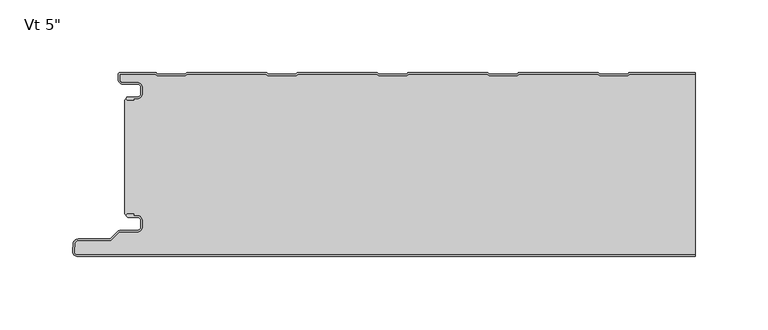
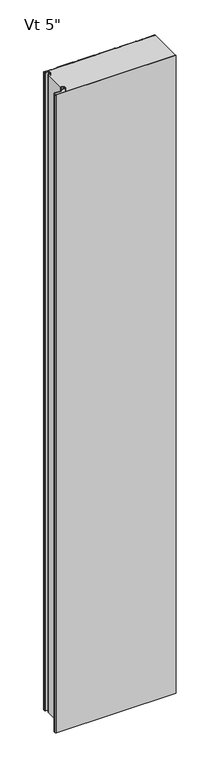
"""IFC4 building model written with IfcOpenShell, lengths in millimetres: plate geometry."""

from ifc_helpers import new_model, si_unit, point, frame, frame_2d, origin, origin_with_axes, place, context, project, spatial, polyline, circle_curve, trimmed, segment, composite_curve, outline, extrude, source, transform, mapped, element, save
from ifc_brep_helpers import plane_surface, cylinder_surface, revolved_surface, advanced_brep


def plate_d46dd3be(model_context):
    return source(origin(), model_context, "Body", "SolidModel", [
        advanced_brep(
        [(-194.5686912, -17.001516, 2400.0), (-195.5686884, -18.0015192, 2400.0), (-194.5686912, -19.0015105, 2400.0), (-190.5684875, -19.0015105, 2400.0), (-190.5684875, -18.001516, 2400.0), (-187.8762777, -18.001516, 2400.0), (-184.576282, -14.7015203, 2400.0), (-184.576282, -10.3015291, 2400.0), (-187.8762775, -7.0015336, 2400.0), (-198.2962564, -7.0015336, 2400.0), (-200.0662506, -5.2315394, 2400.0), (-200.0662506, -0.9999917, 2400.0), (-175.565974, -0.9999917, 2400.0), (-174.1803314, -2.2002307, 2400.0), (-154.8051651, -2.2002307, 2400.0), (-153.4195321, -1.0, 2400.0), (-99.3661168, -0.9999999, 2400.0), (-97.9804838, -2.2002306, 2400.0), (-78.6053175, -2.2002306, 2400.0), (-77.2196845, -0.9999999, 2400.0), (-23.1662692, -0.9999998, 2400.0), (-21.7806362, -2.2002305, 2400.0), (-2.4054699, -2.2002304, 2400.0), (-1.0198369, -0.9999997, 2400.0), (53.0335784, -0.9999996, 2400.0), (54.4192114, -2.2002303, 2400.0), (73.7943777, -2.2002303, 2400.0), (75.1800107, -0.9999996, 2400.0), (129.233426, -0.9999995, 2400.0), (130.619059, -2.2002302, 2400.0), (149.9942253, -2.2002302, 2400.0), (151.3798583, -0.9999995, 2400.0), (196.5999997, -0.9999994, 2400.0), (196.5999997, 6e-07, 2400.0), (151.5290094, 5e-07, 2400.0), (150.6123925, -0.341788, 2400.0), (149.6213449, -1.2002302, 2400.0), (130.9919394, -1.2002302, 2400.0), (130.0008918, -0.341788, 2400.0), (129.0842749, 5e-07, 2400.0), (75.3291618, 4e-07, 2400.0), (74.4125449, -0.3417881, 2400.0), (73.4214973, -1.2002303, 2400.0), (54.7920918, -1.2002303, 2400.0), (53.8010442, -0.3417881, 2400.0), (52.8844273, 4e-07, 2400.0), (-0.8706858, 3e-07, 2400.0), (-1.7873027, -0.3417882, 2400.0), (-2.7783503, -1.2002304, 2400.0), (-21.4077558, -1.2002305, 2400.0), (-22.3988034, -0.3417883, 2400.0), (-23.3154203, 2e-07, 2400.0), (-77.0705334, 1e-07, 2400.0), (-77.9871503, -0.3417884, 2400.0), (-78.9781979, -1.2002306, 2400.0), (-97.6076034, -1.2002306, 2400.0), (-98.598651, -0.3417884, 2400.0), (-99.5152679, 1e-07, 2400.0), (-153.270381, 0.0, 2400.0), (-154.1869979, -0.3417885, 2400.0), (-155.1780455, -1.2002307, 2400.0), (-173.807451, -1.2002307, 2400.0), (-174.7984986, -0.3417885, 2400.0), (-175.7152069, 0.0, 2400.0), (-199.6662545, 8.3e-06, 2400.0), (-201.0662506, -1.3999879, 2400.0), (-201.0662506, -5.2315394, 2400.0), (-198.2962564, -8.0015336, 2400.0), (-187.8762775, -8.0015336, 2400.0), (-185.576282, -10.3015291, 2400.0), (-185.576282, -14.7015203, 2400.0), (-187.8762777, -17.001516, 2400.0), (-194.5686912, -17.001516, 0.0), (-187.8762777, -17.001516, 0.0), (-185.576282, -14.7015203, 0.0), (-185.576282, -10.3015291, 0.0), (-187.8762775, -8.0015336, 0.0), (-198.2962564, -8.0015336, 0.0), (-201.0662506, -5.2315394, 0.0), (-201.0662506, -1.3999879, 0.0), (-199.6662545, 8.3e-06, 0.0), (-175.7151155, 8.3e-06, 0.0), (-174.7984986, -0.3417885, 0.0), (-173.807451, -1.2002307, 0.0), (-155.1780455, -1.2002307, 0.0), (-154.1869979, -0.3417885, 0.0), (-153.270381, 0.0, 0.0), (-99.5152679, 1e-07, 0.0), (-98.598651, -0.3417884, 0.0), (-97.6076034, -1.2002306, 0.0), (-78.9781979, -1.2002306, 0.0), (-77.9871503, -0.3417884, 0.0), (-77.0705334, 1e-07, 0.0), (-23.3154203, 2e-07, 0.0), (-22.3988034, -0.3417883, 0.0), (-21.4077558, -1.2002305, 0.0), (-2.7783503, -1.2002304, 0.0), (-1.7873027, -0.3417882, 0.0), (-0.8706858, 3e-07, 0.0), (52.8844273, 4e-07, 0.0), (53.8010442, -0.3417881, 0.0), (54.7920918, -1.2002303, 0.0), (73.4214973, -1.2002303, 0.0), (74.4125449, -0.3417881, 0.0), (75.3291618, 4e-07, 0.0), (129.0842749, 5e-07, 0.0), (130.0008918, -0.341788, 0.0), (130.9919394, -1.2002302, 0.0), (149.6213449, -1.2002302, 0.0), (150.6123925, -0.341788, 0.0), (151.5290094, 5e-07, 0.0), (196.5999997, 6e-07, 0.0), (196.5999997, -0.9999994, 0.0), (151.3798583, -0.9999995, 0.0), (149.9942253, -2.2002302, 0.0), (130.619059, -2.2002302, 0.0), (129.233426, -0.9999995, 0.0), (75.1800107, -0.9999996, 0.0), (73.7943777, -2.2002303, 0.0), (54.4192114, -2.2002303, 0.0), (53.0335784, -0.9999996, 0.0), (-1.0198369, -0.9999997, 0.0), (-2.4054699, -2.2002304, 0.0), (-21.7806362, -2.2002305, 0.0), (-23.1662692, -0.9999998, 0.0), (-77.2196845, -0.9999999, 0.0), (-78.6053175, -2.2002306, 0.0), (-97.9804838, -2.2002306, 0.0), (-99.3661168, -0.9999999, 0.0), (-153.4195321, -1.0, 0.0), (-154.8051651, -2.2002307, 0.0), (-174.1803314, -2.2002307, 0.0), (-175.565974, -0.9999917, 0.0), (-200.0662506, -0.9999917, 0.0), (-200.0662506, -5.2315394, 0.0), (-198.2962564, -7.0015336, 0.0), (-187.8762775, -7.0015336, 0.0), (-184.576282, -10.3015291, 0.0), (-184.576282, -14.7015203, 0.0), (-187.8762777, -18.001516, 0.0), (-190.5684875, -18.001516, 0.0), (-190.5684875, -19.0015105, 0.0), (-194.5686912, -19.0015105, 0.0), (-195.5686883, -18.0015193, 0.0)],
        [
            (0, 1, circle_curve(frame((-194.5686912, -18.0015133, 2400.0), z_axis=(0.0, 0.0, 1.0), x_axis=(1.0, 1.7886125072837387e-09, 0.0)), 0.9999973)),
            (1, 2, circle_curve(frame((-194.5686912, -18.0015133, 2400.0), z_axis=(0.0, 0.0, 1.0), x_axis=(1.0, 1.7886125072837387e-09, 0.0)), 0.9999972)),
            (2, 3),
            (3, 4),
            (4, 5),
            (5, 6, circle_curve(frame((-187.8762777, -14.7015203, 2400.0), z_axis=(0.0, 0.0, 1.0), x_axis=(1.0, 1.7886125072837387e-09, 0.0)), 3.2999957)),
            (6, 7),
            (7, 8, circle_curve(frame((-187.8762775, -10.3015291, 2400.0), z_axis=(0.0, 0.0, 1.0), x_axis=(1.0, 1.7886125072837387e-09, 0.0)), 3.2999955)),
            (8, 9),
            (9, 10, circle_curve(frame((-198.2962564, -5.2315394, 2400.0), z_axis=(0.0, 0.0, -1.0), x_axis=(1.0, 1.7886125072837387e-09, 0.0)), 1.7699942)),
            (10, 11),
            (11, 12),
            (12, 13),
            (13, 14),
            (14, 15),
            (15, 16),
            (16, 17),
            (17, 18),
            (18, 19),
            (19, 20),
            (20, 21),
            (21, 22),
            (22, 23),
            (23, 24),
            (24, 25),
            (25, 26),
            (26, 27),
            (27, 28),
            (28, 29),
            (29, 30),
            (30, 31),
            (31, 32),
            (32, 33),
            (33, 34),
            (34, 35, circle_curve(frame((151.5290094, -1.3999967, 2400.0), z_axis=(0.0, 0.0, 1.0), x_axis=(1.0, 1.7886125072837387e-09, 0.0)), 1.3999972)),
            (35, 36),
            (36, 37),
            (37, 38),
            (38, 39, circle_curve(frame((129.0842749, -1.3999967, 2400.0), z_axis=(0.0, 0.0, 1.0), x_axis=(1.0, 1.7886125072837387e-09, 0.0)), 1.3999972)),
            (39, 40),
            (40, 41, circle_curve(frame((75.3291618, -1.3999968, 2400.0), z_axis=(0.0, 0.0, 1.0), x_axis=(1.0, 1.7886125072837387e-09, 0.0)), 1.3999972)),
            (41, 42),
            (42, 43),
            (43, 44),
            (44, 45, circle_curve(frame((52.8844273, -1.3999968, 2400.0), z_axis=(0.0, 0.0, 1.0), x_axis=(1.0, 1.7886125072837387e-09, 0.0)), 1.3999972)),
            (45, 46),
            (46, 47, circle_curve(frame((-0.8706858, -1.3999969, 2400.0), z_axis=(0.0, 0.0, 1.0), x_axis=(1.0, 1.7886125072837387e-09, 0.0)), 1.3999972)),
            (47, 48),
            (48, 49),
            (49, 50),
            (50, 51, circle_curve(frame((-23.3154203, -1.399997, 2400.0), z_axis=(0.0, 0.0, 1.0), x_axis=(1.0, 1.7886125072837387e-09, 0.0)), 1.3999972)),
            (51, 52),
            (52, 53, circle_curve(frame((-77.0705334, -1.3999971, 2400.0), z_axis=(0.0, 0.0, 1.0), x_axis=(1.0, 1.7886125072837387e-09, 0.0)), 1.3999972)),
            (53, 54),
            (54, 55),
            (55, 56),
            (56, 57, circle_curve(frame((-99.5152679, -1.3999971, 2400.0), z_axis=(0.0, 0.0, 1.0), x_axis=(1.0, 1.7886125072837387e-09, 0.0)), 1.3999972)),
            (57, 58),
            (58, 59, circle_curve(frame((-153.270381, -1.3999972, 2400.0), z_axis=(0.0, 0.0, 1.0), x_axis=(1.0, 1.7886125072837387e-09, 0.0)), 1.3999972)),
            (59, 60),
            (60, 61),
            (61, 62),
            (62, 63, circle_curve(frame((-175.7151155, -1.3999972, 2400.0), z_axis=(0.0, 0.0, 1.0), x_axis=(1.0, 1.7886125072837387e-09, 0.0)), 1.3999972)),
            (63, 64),
            (64, 65, circle_curve(frame((-199.6662545, -1.3999879, 2400.0), z_axis=(0.0, 0.0, 1.0), x_axis=(1.0, 1.7886125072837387e-09, 0.0)), 1.3999962)),
            (65, 66),
            (66, 67, circle_curve(frame((-198.2962564, -5.2315394, 2400.0), z_axis=(0.0, 0.0, 1.0), x_axis=(1.0, 1.7886125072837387e-09, 0.0)), 2.7699942)),
            (67, 68),
            (68, 69, circle_curve(frame((-187.8762775, -10.3015291, 2400.0), z_axis=(0.0, 0.0, -1.0), x_axis=(1.0, 1.7886125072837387e-09, 0.0)), 2.2999955)),
            (69, 70),
            (70, 71, circle_curve(frame((-187.8762777, -14.7015203, 2400.0), z_axis=(0.0, 0.0, -1.0), x_axis=(1.0, 1.7886125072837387e-09, 0.0)), 2.2999957)),
            (71, 0),
            (72, 73),
            (73, 74, circle_curve(frame((-187.8762777, -14.7015203, 0.0), z_axis=(0.0, 0.0, 1.0), x_axis=(1.0, 1.7886125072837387e-09, 0.0)), 2.2999957)),
            (74, 75),
            (75, 76, circle_curve(frame((-187.8762775, -10.3015291, 0.0), z_axis=(0.0, 0.0, 1.0), x_axis=(1.0, 1.7886125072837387e-09, 0.0)), 2.2999955)),
            (76, 77),
            (77, 78, circle_curve(frame((-198.2962564, -5.2315394, 0.0), z_axis=(0.0, 0.0, -1.0), x_axis=(1.0, 1.7886125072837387e-09, 0.0)), 2.7699942)),
            (78, 79),
            (79, 80, circle_curve(frame((-199.6662545, -1.3999879, 0.0), z_axis=(0.0, 0.0, -1.0), x_axis=(1.0, 1.7886125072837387e-09, 0.0)), 1.3999962)),
            (80, 81),
            (81, 82, circle_curve(frame((-175.7151155, -1.3999972, 0.0), z_axis=(0.0, 0.0, -1.0), x_axis=(1.0, 1.7886125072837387e-09, 0.0)), 1.3999972)),
            (82, 83),
            (83, 84),
            (84, 85),
            (85, 86, circle_curve(frame((-153.270381, -1.3999972, 0.0), z_axis=(0.0, 0.0, -1.0), x_axis=(1.0, 1.7886125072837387e-09, 0.0)), 1.3999972)),
            (86, 87),
            (87, 88, circle_curve(frame((-99.5152679, -1.3999971, 0.0), z_axis=(0.0, 0.0, -1.0), x_axis=(1.0, 1.7886125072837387e-09, 0.0)), 1.3999972)),
            (88, 89),
            (89, 90),
            (90, 91),
            (91, 92, circle_curve(frame((-77.0705334, -1.3999971, 0.0), z_axis=(0.0, 0.0, -1.0), x_axis=(1.0, 1.7886125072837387e-09, 0.0)), 1.3999972)),
            (92, 93),
            (93, 94, circle_curve(frame((-23.3154203, -1.399997, 0.0), z_axis=(0.0, 0.0, -1.0), x_axis=(1.0, 1.7886125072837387e-09, 0.0)), 1.3999972)),
            (94, 95),
            (95, 96),
            (96, 97),
            (97, 98, circle_curve(frame((-0.8706858, -1.3999969, 0.0), z_axis=(0.0, 0.0, -1.0), x_axis=(1.0, 1.7886125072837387e-09, 0.0)), 1.3999972)),
            (98, 99),
            (99, 100, circle_curve(frame((52.8844273, -1.3999968, 0.0), z_axis=(0.0, 0.0, -1.0), x_axis=(1.0, 1.7886125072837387e-09, 0.0)), 1.3999972)),
            (100, 101),
            (101, 102),
            (102, 103),
            (103, 104, circle_curve(frame((75.3291618, -1.3999968, 0.0), z_axis=(0.0, 0.0, -1.0), x_axis=(1.0, 1.7886125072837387e-09, 0.0)), 1.3999972)),
            (104, 105),
            (105, 106, circle_curve(frame((129.0842749, -1.3999967, 0.0), z_axis=(0.0, 0.0, -1.0), x_axis=(1.0, 1.7886125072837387e-09, 0.0)), 1.3999972)),
            (106, 107),
            (107, 108),
            (108, 109),
            (109, 110, circle_curve(frame((151.5290094, -1.3999967, 0.0), z_axis=(0.0, 0.0, -1.0), x_axis=(1.0, 1.7886125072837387e-09, 0.0)), 1.3999972)),
            (110, 111),
            (111, 112),
            (112, 113),
            (113, 114),
            (114, 115),
            (115, 116),
            (116, 117),
            (117, 118),
            (118, 119),
            (119, 120),
            (120, 121),
            (121, 122),
            (122, 123),
            (123, 124),
            (124, 125),
            (125, 126),
            (126, 127),
            (127, 128),
            (128, 129),
            (129, 130),
            (130, 131),
            (131, 132),
            (132, 133),
            (133, 134),
            (134, 135, circle_curve(frame((-198.2962564, -5.2315394, 0.0), z_axis=(0.0, 0.0, 1.0), x_axis=(1.0, 1.7886125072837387e-09, 0.0)), 1.7699942)),
            (135, 136),
            (136, 137, circle_curve(frame((-187.8762775, -10.3015291, 0.0), z_axis=(0.0, 0.0, -1.0), x_axis=(1.0, 1.7886125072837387e-09, 0.0)), 3.2999955)),
            (137, 138),
            (138, 139, circle_curve(frame((-187.8762777, -14.7015203, 0.0), z_axis=(0.0, 0.0, -1.0), x_axis=(1.0, 1.7886125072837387e-09, 0.0)), 3.2999957)),
            (139, 140),
            (140, 141),
            (141, 142),
            (142, 143, circle_curve(frame((-194.5686912, -18.0015133, 0.0), z_axis=(0.0, 0.0, -1.0), x_axis=(1.0, 1.7886125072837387e-09, 0.0)), 0.9999972)),
            (143, 72, circle_curve(frame((-194.5686912, -18.0015133, 0.0), z_axis=(0.0, 0.0, -1.0), x_axis=(1.0, 1.7886125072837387e-09, 0.0)), 0.9999973)),
            (32, 112),
            (111, 33),
            (71, 73),
            (72, 0),
            (70, 74),
            (69, 75),
            (68, 76),
            (67, 77),
            (66, 78),
            (65, 79),
            (64, 80),
            (63, 81),
            (62, 82),
            (61, 83),
            (60, 84),
            (59, 85),
            (58, 86),
            (57, 87),
            (56, 88),
            (55, 89),
            (54, 90),
            (53, 91),
            (52, 92),
            (51, 93),
            (50, 94),
            (49, 95),
            (48, 96),
            (47, 97),
            (46, 98),
            (45, 99),
            (44, 100),
            (43, 101),
            (42, 102),
            (41, 103),
            (40, 104),
            (39, 105),
            (38, 106),
            (37, 107),
            (36, 108),
            (35, 109),
            (34, 110),
            (31, 113),
            (30, 114),
            (29, 115),
            (28, 116),
            (27, 117),
            (26, 118),
            (25, 119),
            (24, 120),
            (23, 121),
            (22, 122),
            (21, 123),
            (20, 124),
            (19, 125),
            (18, 126),
            (17, 127),
            (16, 128),
            (15, 129),
            (14, 130),
            (13, 131),
            (12, 132),
            (11, 133),
            (10, 134),
            (9, 135),
            (8, 136),
            (7, 137),
            (6, 138),
            (5, 139),
            (4, 140),
            (3, 141),
            (2, 142),
            (1, 143),
        ],
        [
            plane_surface(frame((336.8, 9e-07, 2400.0), z_axis=(0.0, 0.0, 1.0), x_axis=(-1.7886125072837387e-09, 1.0, 0.0))),
            plane_surface(frame((336.8, 9e-07, 0.0), z_axis=(0.0, 0.0, -1.0), x_axis=(-1.7886125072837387e-09, 1.0, 0.0))),
            plane_surface(frame((196.5999999, -136.9999994, 2400.0), z_axis=(1.0, 1.7886125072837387e-09, 0.0), x_axis=(0.0, 0.0, -1.0))),
            plane_surface(frame((-194.5686912, -17.001516, 2400.0), z_axis=(-1.7886125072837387e-09, 1.0, 0.0), x_axis=(0.0, 0.0, -1.0))),
            revolved_surface(polyline([(-185.576282, -14.7015202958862, 0.0), (-185.576282, -14.7015202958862, 2400.0)]), (-187.8762777, -14.7015203, 2400.0), (0.0, 0.0, -1.0)),
            plane_surface(frame((-185.576282, -14.7015203, 2400.0), z_axis=(-1.0, -1.7886125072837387e-09, 0.0), x_axis=(0.0, 0.0, -1.0))),
            revolved_surface(polyline([(-185.576282, -10.301529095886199, 0.0), (-185.576282, -10.301529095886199, 2400.0)]), (-187.8762775, -10.3015291, 2400.0), (0.0, 0.0, -1.0)),
            plane_surface(frame((-187.8762775, -8.0015336, 2400.0), z_axis=(1.7886125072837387e-09, -1.0, 0.0), x_axis=(0.0, 0.0, -1.0))),
            cylinder_surface(frame((-198.2962564, -5.2315394, 2400.0), z_axis=(0.0, 0.0, 1.0), x_axis=(1.0, 1.7886125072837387e-09, 0.0)), 2.7699942),
            plane_surface(frame((-201.0662506, -5.2315394, 2400.0), z_axis=(-1.0, -1.7886125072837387e-09, 0.0), x_axis=(0.0, 0.0, -1.0))),
            cylinder_surface(frame((-199.6662545, -1.3999879, 2400.0), z_axis=(0.0, 0.0, 1.0), x_axis=(1.0, 1.7886125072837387e-09, 0.0)), 1.3999962),
            plane_surface(frame((-199.6662545, 8.3e-06, 2400.0), z_axis=(-1.7886125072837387e-09, 1.0, 0.0), x_axis=(0.0, 0.0, -1.0))),
            cylinder_surface(frame((-175.7151155, -1.3999972, 2400.0), z_axis=(0.0, 0.0, 1.0), x_axis=(1.0, 1.7886125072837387e-09, 0.0)), 1.3999972),
            plane_surface(frame((-174.7984986, -0.3417885, 2400.0), z_axis=(0.6547276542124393, 0.755864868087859, 0.0), x_axis=(0.0, 0.0, -1.0))),
            plane_surface(frame((-164.4927482, -1.2002307, 2400.0), z_axis=(-1.7886125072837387e-09, 1.0, 0.0), x_axis=(0.0, 0.0, -1.0))),
            plane_surface(frame((-155.1780455, -1.2002307, 2400.0), z_axis=(-0.6547276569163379, 0.755864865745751, 0.0), x_axis=(0.0, 0.0, -1.0))),
            cylinder_surface(frame((-153.270381, -1.3999972, 2400.0), z_axis=(0.0, 0.0, 1.0), x_axis=(1.0, 1.7886125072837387e-09, 0.0)), 1.3999972),
            plane_surface(frame((-153.270381, 0.0, 2400.0), z_axis=(-1.7886074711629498e-09, 1.0, 0.0), x_axis=(0.0, 0.0, -1.0))),
            cylinder_surface(frame((-99.5152679, -1.3999971, 2400.0), z_axis=(0.0, 0.0, 1.0), x_axis=(1.0, 1.7886125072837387e-09, 0.0)), 1.3999972),
            plane_surface(frame((-98.598651, -0.3417884, 2400.0), z_axis=(0.6547276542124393, 0.755864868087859, 0.0), x_axis=(0.0, 0.0, -1.0))),
            plane_surface(frame((-88.2929006, -1.2002306, 2400.0), z_axis=(-1.7886125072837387e-09, 1.0, 0.0), x_axis=(0.0, 0.0, -1.0))),
            plane_surface(frame((-78.9781979, -1.2002306, 2400.0), z_axis=(-0.6547276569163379, 0.755864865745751, 0.0), x_axis=(0.0, 0.0, -1.0))),
            cylinder_surface(frame((-77.0705334, -1.3999971, 2400.0), z_axis=(0.0, 0.0, 1.0), x_axis=(1.0, 1.7886125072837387e-09, 0.0)), 1.3999972),
            plane_surface(frame((-77.0705334, 1e-07, 2400.0), z_axis=(-1.7886074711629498e-09, 1.0, 0.0), x_axis=(0.0, 0.0, -1.0))),
            cylinder_surface(frame((-23.3154203, -1.399997, 2400.0), z_axis=(0.0, 0.0, 1.0), x_axis=(1.0, 1.7886125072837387e-09, 0.0)), 1.3999972),
            plane_surface(frame((-22.3988034, -0.3417883, 2400.0), z_axis=(0.6547276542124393, 0.755864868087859, 0.0), x_axis=(0.0, 0.0, -1.0))),
            plane_surface(frame((-12.093053, -1.2002305, 2400.0), z_axis=(-1.7886125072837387e-09, 1.0, 0.0), x_axis=(0.0, 0.0, -1.0))),
            plane_surface(frame((-2.7783503, -1.2002304, 2400.0), z_axis=(-0.6547276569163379, 0.755864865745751, 0.0), x_axis=(0.0, 0.0, -1.0))),
            cylinder_surface(frame((-0.8706858, -1.3999969, 2400.0), z_axis=(0.0, 0.0, 1.0), x_axis=(1.0, 1.7886125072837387e-09, 0.0)), 1.3999972),
            plane_surface(frame((-0.8706858, 3e-07, 2400.0), z_axis=(-1.7886074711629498e-09, 1.0, 0.0), x_axis=(0.0, 0.0, -1.0))),
            cylinder_surface(frame((52.8844273, -1.3999968, 2400.0), z_axis=(0.0, 0.0, 1.0), x_axis=(1.0, 1.7886125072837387e-09, 0.0)), 1.3999972),
            plane_surface(frame((53.8010442, -0.3417881, 2400.0), z_axis=(0.6547276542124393, 0.755864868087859, 0.0), x_axis=(0.0, 0.0, -1.0))),
            plane_surface(frame((64.1067946, -1.2002303, 2400.0), z_axis=(-1.7886125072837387e-09, 1.0, 0.0), x_axis=(0.0, 0.0, -1.0))),
            plane_surface(frame((73.4214973, -1.2002303, 2400.0), z_axis=(-0.6547276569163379, 0.755864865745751, 0.0), x_axis=(0.0, 0.0, -1.0))),
            cylinder_surface(frame((75.3291618, -1.3999968, 2400.0), z_axis=(0.0, 0.0, 1.0), x_axis=(1.0, 1.7886125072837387e-09, 0.0)), 1.3999972),
            plane_surface(frame((75.3291618, 4e-07, 2400.0), z_axis=(-1.7886074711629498e-09, 1.0, 0.0), x_axis=(0.0, 0.0, -1.0))),
            cylinder_surface(frame((129.0842749, -1.3999967, 2400.0), z_axis=(0.0, 0.0, 1.0), x_axis=(1.0, 1.7886125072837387e-09, 0.0)), 1.3999972),
            plane_surface(frame((130.0008918, -0.341788, 2400.0), z_axis=(0.6547276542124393, 0.755864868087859, 0.0), x_axis=(0.0, 0.0, -1.0))),
            plane_surface(frame((140.3066422, -1.2002302, 2400.0), z_axis=(-1.7886125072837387e-09, 1.0, 0.0), x_axis=(0.0, 0.0, -1.0))),
            plane_surface(frame((149.6213449, -1.2002302, 2400.0), z_axis=(-0.6547276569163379, 0.755864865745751, 0.0), x_axis=(0.0, 0.0, -1.0))),
            cylinder_surface(frame((151.5290094, -1.3999967, 2400.0), z_axis=(0.0, 0.0, 1.0), x_axis=(1.0, 1.7886125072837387e-09, 0.0)), 1.3999972),
            plane_surface(frame((151.5290094, 5e-07, 2400.0), z_axis=(-1.7886074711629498e-09, 1.0, 0.0), x_axis=(0.0, 0.0, -1.0))),
            plane_surface(frame((205.4332736, -0.9999994, 2400.0), z_axis=(1.7886074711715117e-09, -1.0, 0.0), x_axis=(0.0, 0.0, -1.0))),
            plane_surface(frame((151.3798583, -0.9999995, 2400.0), z_axis=(0.6547276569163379, -0.755864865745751, 0.0), x_axis=(0.0, 0.0, -1.0))),
            plane_surface(frame((149.9942253, -2.2002302, 2400.0), z_axis=(1.7886125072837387e-09, -1.0, 0.0), x_axis=(0.0, 0.0, -1.0))),
            plane_surface(frame((130.619059, -2.2002302, 2400.0), z_axis=(-0.6547276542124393, -0.755864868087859, 0.0), x_axis=(0.0, 0.0, -1.0))),
            plane_surface(frame((129.233426, -0.9999995, 2400.0), z_axis=(1.7886074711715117e-09, -1.0, 0.0), x_axis=(0.0, 0.0, -1.0))),
            plane_surface(frame((75.1800107, -0.9999996, 2400.0), z_axis=(0.6547276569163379, -0.755864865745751, 0.0), x_axis=(0.0, 0.0, -1.0))),
            plane_surface(frame((73.7943777, -2.2002303, 2400.0), z_axis=(1.7886125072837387e-09, -1.0, 0.0), x_axis=(0.0, 0.0, -1.0))),
            plane_surface(frame((54.4192114, -2.2002303, 2400.0), z_axis=(-0.6547276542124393, -0.755864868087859, 0.0), x_axis=(0.0, 0.0, -1.0))),
            plane_surface(frame((53.0335784, -0.9999996, 2400.0), z_axis=(1.7886074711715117e-09, -1.0, 0.0), x_axis=(0.0, 0.0, -1.0))),
            plane_surface(frame((-1.0198369, -0.9999997, 2400.0), z_axis=(0.6547276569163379, -0.755864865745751, 0.0), x_axis=(0.0, 0.0, -1.0))),
            plane_surface(frame((-2.4054699, -2.2002304, 2400.0), z_axis=(1.7886125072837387e-09, -1.0, 0.0), x_axis=(0.0, 0.0, -1.0))),
            plane_surface(frame((-21.7806362, -2.2002305, 2400.0), z_axis=(-0.6547276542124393, -0.755864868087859, 0.0), x_axis=(0.0, 0.0, -1.0))),
            plane_surface(frame((-23.1662692, -0.9999998, 2400.0), z_axis=(1.7886074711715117e-09, -1.0, 0.0), x_axis=(0.0, 0.0, -1.0))),
            plane_surface(frame((-77.2196845, -0.9999999, 2400.0), z_axis=(0.6547276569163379, -0.755864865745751, 0.0), x_axis=(0.0, 0.0, -1.0))),
            plane_surface(frame((-78.6053175, -2.2002306, 2400.0), z_axis=(1.7886125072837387e-09, -1.0, 0.0), x_axis=(0.0, 0.0, -1.0))),
            plane_surface(frame((-97.9804838, -2.2002306, 2400.0), z_axis=(-0.6547276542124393, -0.755864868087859, 0.0), x_axis=(0.0, 0.0, -1.0))),
            plane_surface(frame((-99.3661168, -0.9999999, 2400.0), z_axis=(1.7886074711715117e-09, -1.0, 0.0), x_axis=(0.0, 0.0, -1.0))),
            plane_surface(frame((-153.4195321, -1.0, 2400.0), z_axis=(0.6547276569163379, -0.755864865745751, 0.0), x_axis=(0.0, 0.0, -1.0))),
            plane_surface(frame((-154.8051651, -2.2002307, 2400.0), z_axis=(1.7886125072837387e-09, -1.0, 0.0), x_axis=(0.0, 0.0, -1.0))),
            plane_surface(frame((-174.1803314, -2.2002307, 2400.0), z_axis=(-0.6547276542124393, -0.755864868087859, 0.0), x_axis=(0.0, 0.0, -1.0))),
            plane_surface(frame((-175.565974, -0.9999917, 2400.0), z_axis=(1.7886125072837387e-09, -1.0, 0.0), x_axis=(0.0, 0.0, -1.0))),
            plane_surface(frame((-200.0662506, -0.9999917, 2400.0), z_axis=(1.0, 1.7886125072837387e-09, 0.0), x_axis=(0.0, 0.0, -1.0))),
            revolved_surface(polyline([(-196.5262622, -5.231539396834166, 0.0), (-196.5262622, -5.231539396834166, 2400.0)]), (-198.2962564, -5.2315394, 2400.0), (0.0, 0.0, -1.0)),
            plane_surface(frame((-198.2962564, -7.0015336, 2400.0), z_axis=(-1.7886125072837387e-09, 1.0, 0.0), x_axis=(0.0, 0.0, -1.0))),
            cylinder_surface(frame((-187.8762775, -10.3015291, 2400.0), z_axis=(0.0, 0.0, 1.0), x_axis=(1.0, 1.7886125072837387e-09, 0.0)), 3.2999955),
            plane_surface(frame((-184.576282, -10.3015291, 2400.0), z_axis=(1.0, 1.7886125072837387e-09, 0.0), x_axis=(0.0, 0.0, -1.0))),
            cylinder_surface(frame((-187.8762777, -14.7015203, 2400.0), z_axis=(0.0, 0.0, 1.0), x_axis=(1.0, 1.7886125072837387e-09, 0.0)), 3.2999957),
            plane_surface(frame((-187.8762777, -18.001516, 2400.0), z_axis=(1.7886125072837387e-09, -1.0, 0.0), x_axis=(0.0, 0.0, -1.0))),
            plane_surface(frame((-190.5684875, -18.001516, 2400.0), z_axis=(1.0, 1.7886125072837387e-09, 0.0), x_axis=(0.0, 0.0, -1.0))),
            plane_surface(frame((-190.5684875, -19.0015105, 2400.0), z_axis=(1.7886125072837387e-09, -1.0, 0.0), x_axis=(0.0, 0.0, -1.0))),
            cylinder_surface(frame((-194.5686912, -18.0015133, 2400.0), z_axis=(0.0, 0.0, 1.0), x_axis=(1.0, 1.7886125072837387e-09, 0.0)), 0.9999972),
            cylinder_surface(frame((-194.5686912, -18.0015133, 2400.0), z_axis=(0.0, 0.0, 1.0), x_axis=(1.0, 1.7886125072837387e-09, 0.0)), 0.9999973),
        ],
        [
            (0, [[1, 2, 3, 4, 5, 6, 7, 8, 9, 10, 11, 12, 13, 14, 15, 16, 17, 18, 19, 20, 21, 22, 23, 24, 25, 26, 27, 28, 29, 30, 31, 32, 33, 34, 35, 36, 37, 38, 39, 40, 41, 42, 43, 44, 45, 46, 47, 48, 49, 50, 51, 52, 53, 54, 55, 56, 57, 58, 59, 60, 61, 62, 63, 64, 65, 66, 67, 68, 69, 70, 71, 72]]),
            (1, [[73, 74, 75, 76, 77, 78, 79, 80, 81, 82, 83, 84, 85, 86, 87, 88, 89, 90, 91, 92, 93, 94, 95, 96, 97, 98, 99, 100, 101, 102, 103, 104, 105, 106, 107, 108, 109, 110, 111, 112, 113, 114, 115, 116, 117, 118, 119, 120, 121, 122, 123, 124, 125, 126, 127, 128, 129, 130, 131, 132, 133, 134, 135, 136, 137, 138, 139, 140, 141, 142, 143, 144]]),
            (2, [[145, -112, 146, -33]]),
            (3, [[147, -73, 148, -72]]),
            (4, [[149, -74, -147, -71]]),
            (5, [[150, -75, -149, -70]]),
            (6, [[151, -76, -150, -69]]),
            (7, [[152, -77, -151, -68]]),
            (8, [[153, -78, -152, -67]]),
            (9, [[154, -79, -153, -66]]),
            (10, [[155, -80, -154, -65]]),
            (11, [[156, -81, -155, -64]]),
            (12, [[157, -82, -156, -63]]),
            (13, [[158, -83, -157, -62]]),
            (14, [[159, -84, -158, -61]]),
            (15, [[160, -85, -159, -60]]),
            (16, [[161, -86, -160, -59]]),
            (17, [[162, -87, -161, -58]]),
            (18, [[163, -88, -162, -57]]),
            (19, [[164, -89, -163, -56]]),
            (20, [[165, -90, -164, -55]]),
            (21, [[166, -91, -165, -54]]),
            (22, [[167, -92, -166, -53]]),
            (23, [[168, -93, -167, -52]]),
            (24, [[169, -94, -168, -51]]),
            (25, [[170, -95, -169, -50]]),
            (26, [[171, -96, -170, -49]]),
            (27, [[172, -97, -171, -48]]),
            (28, [[173, -98, -172, -47]]),
            (29, [[174, -99, -173, -46]]),
            (30, [[175, -100, -174, -45]]),
            (31, [[176, -101, -175, -44]]),
            (32, [[177, -102, -176, -43]]),
            (33, [[178, -103, -177, -42]]),
            (34, [[179, -104, -178, -41]]),
            (35, [[180, -105, -179, -40]]),
            (36, [[181, -106, -180, -39]]),
            (37, [[182, -107, -181, -38]]),
            (38, [[183, -108, -182, -37]]),
            (39, [[184, -109, -183, -36]]),
            (40, [[185, -110, -184, -35]]),
            (41, [[-34, -146, -111, -185]]),
            (42, [[-113, -145, -32, 186]]),
            (43, [[187, -114, -186, -31]]),
            (44, [[188, -115, -187, -30]]),
            (45, [[189, -116, -188, -29]]),
            (46, [[190, -117, -189, -28]]),
            (47, [[191, -118, -190, -27]]),
            (48, [[192, -119, -191, -26]]),
            (49, [[193, -120, -192, -25]]),
            (50, [[194, -121, -193, -24]]),
            (51, [[195, -122, -194, -23]]),
            (52, [[196, -123, -195, -22]]),
            (53, [[197, -124, -196, -21]]),
            (54, [[198, -125, -197, -20]]),
            (55, [[199, -126, -198, -19]]),
            (56, [[200, -127, -199, -18]]),
            (57, [[201, -128, -200, -17]]),
            (58, [[202, -129, -201, -16]]),
            (59, [[203, -130, -202, -15]]),
            (60, [[204, -131, -203, -14]]),
            (61, [[205, -132, -204, -13]]),
            (62, [[206, -133, -205, -12]]),
            (63, [[207, -134, -206, -11]]),
            (64, [[208, -135, -207, -10]]),
            (65, [[209, -136, -208, -9]]),
            (66, [[210, -137, -209, -8]]),
            (67, [[211, -138, -210, -7]]),
            (68, [[212, -139, -211, -6]]),
            (69, [[213, -140, -212, -5]]),
            (70, [[214, -141, -213, -4]]),
            (71, [[215, -142, -214, -3]]),
            (72, [[216, -143, -215, -2]]),
            (73, [[-148, -144, -216, -1]]),
        ],
    ),
        extrude(outline(composite_curve([segment(polyline([(-232.6087618, -123.1184904), (-232.1690673, -118.0944438)]), True, "CONTINUOUS"), segment(trimmed(circle_curve(frame_2d((-228.519839, -118.7052449)), 3.6999926), [point((-232.1690673, -118.0944438))], [point((-228.519839, -115.0052523))], False, "CARTESIAN"), True, "CONTINUOUS"), segment(polyline([(-228.519839, -115.0052523), (-207.3773995, -115.0052523)]), True, "CONTINUOUS"), segment(trimmed(circle_curve(frame_2d((-207.3773995, -113.7052549)), 1.2999974), [point((-207.3773995, -115.0052523))], [point((-206.4581625, -114.6244919))], True, "CARTESIAN"), True, "CONTINUOUS"), segment(polyline([(-206.4581625, -114.6244919), (-201.6297451, -109.7960744)]), True, "CONTINUOUS"), segment(trimmed(circle_curve(frame_2d((-199.7205606, -111.7052589)), 2.6999946), [point((-201.6297451, -109.7960744))], [point((-199.7205606, -109.0052643))], False, "CARTESIAN"), True, "CONTINUOUS"), segment(polyline([(-199.7205606, -109.0052643), (-187.9096715, -109.0052643)]), True, "CONTINUOUS"), segment(trimmed(circle_curve(frame_2d((-187.9096715, -106.655269)), 2.3499953), [point((-187.9096715, -109.0052643))], [point((-185.5596762, -106.655269))], True, "CARTESIAN"), True, "CONTINUOUS"), segment(polyline([(-185.5596762, -106.655269), (-185.5596762, -102.2552778)]), True, "CONTINUOUS"), segment(trimmed(circle_curve(frame_2d((-187.9096715, -102.2552778)), 2.3499953), [point((-185.5596762, -102.2552778))], [point((-187.9096715, -99.9052825))], True, "CARTESIAN"), True, "CONTINUOUS"), segment(polyline([(-187.9096715, -99.9052825), (-194.4289777, -99.9052825)]), True, "CONTINUOUS"), segment(trimmed(circle_curve(frame_2d((-194.3686906, -98.7068002)), 1.1999976), [point((-194.4289777, -99.9052825))], [point((-195.5683, -98.6762783))], False, "CARTESIAN"), True, "CONTINUOUS"), segment(trimmed(circle_curve(frame_2d((-194.3686906, -98.7068002)), 1.1999976), [point((-195.5683, -98.6762783))], [point((-194.367176, -97.5068036))], False, "CARTESIAN"), True, "CONTINUOUS"), segment(polyline([(-194.367176, -97.5068036), (-190.6087826, -97.5068036), (-190.6087826, -98.9052825), (-187.9096715, -98.9052825)]), True, "CONTINUOUS"), segment(trimmed(circle_curve(frame_2d((-187.9096715, -102.2552778)), 3.3499953), [point((-187.9096715, -98.9052825))], [point((-184.5596762, -102.2552778))], False, "CARTESIAN"), True, "CONTINUOUS"), segment(polyline([(-184.5596762, -102.2552778), (-184.5596762, -106.655269)]), True, "CONTINUOUS"), segment(trimmed(circle_curve(frame_2d((-187.9096715, -106.655269)), 3.3499953), [point((-184.5596762, -106.655269))], [point((-187.9096715, -110.0052643))], False, "CARTESIAN"), True, "CONTINUOUS"), segment(polyline([(-187.9096715, -110.0052643), (-199.7205606, -110.0052643)]), True, "CONTINUOUS"), segment(trimmed(circle_curve(frame_2d((-199.7205606, -111.7052589)), 1.6999946), [point((-199.7205606, -110.0052643))], [point((-200.9226383, -110.5031812))], True, "CARTESIAN"), True, "CONTINUOUS"), segment(polyline([(-200.9226383, -110.5031812), (-206.4247094, -116.0052523), (-228.519839, -116.0052523)]), True, "CONTINUOUS"), segment(trimmed(circle_curve(frame_2d((-228.519839, -118.7052449)), 2.6999926), [point((-228.519839, -116.0052523))], [point((-231.1765707, -118.2238543))], True, "CARTESIAN"), True, "CONTINUOUS"), segment(polyline([(-231.1765707, -118.2238543), (-231.6125697, -123.2056752)]), True, "CONTINUOUS"), segment(trimmed(circle_curve(frame_2d((-229.0521174, -123.4297608)), 2.5702393), [point((-231.6125697, -123.2056752))], [point((-229.1094458, -125.9993607))], True, "CARTESIAN"), True, "CONTINUOUS"), segment(polyline([(-229.1094458, -125.9993607), (196.5999999, -125.9993599), (196.5999999, -126.9999994), (-229.0521174, -127.0000001)]), True, "CONTINUOUS"), segment(trimmed(circle_curve(frame_2d((-229.0521174, -123.4297608)), 3.5702393), [point((-229.0521174, -127.0000001))], [point((-232.6087618, -123.1184904))], False, "CARTESIAN"), True, "CONTINUOUS")], self_intersect=False)), origin_with_axes(), (0.0, 0.0, 1.0), 2400.0),
        advanced_brep(
        [(-195.5683, -98.6708751, 2400.0), (-194.367176, -97.5014003, 2400.0), (-190.6087826, -97.5014003, 2400.0), (-190.6087826, -98.8998792, 2400.0), (-187.9096715, -98.8998792, 2400.0), (-184.5596762, -102.2498745, 2400.0), (-184.5596762, -106.6498657, 2400.0), (-187.9096715, -109.999861, 2400.0), (-199.7205606, -109.999861, 2400.0), (-200.9226383, -110.4977779, 2400.0), (-206.4247094, -115.999849, 2400.0), (-228.519839, -115.9998491, 2400.0), (-231.1765707, -118.2184511, 2400.0), (-231.6125697, -123.2002719, 2400.0), (-229.0521174, -125.9945969, 2400.0), (196.5999999, -125.9999994, 2400.0), (196.5999997, -0.9999994, 2400.0), (151.3798583, -0.9999995, 2400.0), (149.9942254, -2.2002302, 2400.0), (130.6190591, -2.2002302, 2400.0), (129.2334261, -0.9999995, 2400.0), (75.1800107, -0.9999996, 2400.0), (73.7943778, -2.2002303, 2400.0), (54.4192115, -2.2002303, 2400.0), (53.0335785, -0.9999996, 2400.0), (-1.0198369, -0.9999997, 2400.0), (-2.4054698, -2.2002304, 2400.0), (-21.7806361, -2.2002305, 2400.0), (-23.1662691, -0.9999998, 2400.0), (-77.2196845, -0.9999999, 2400.0), (-78.6053174, -2.2002306, 2400.0), (-97.9804837, -2.2002306, 2400.0), (-99.3661167, -0.9999999, 2400.0), (-153.4195321, -1.0, 2400.0), (-154.805165, -2.2002307, 2400.0), (-174.1803313, -2.2002307, 2400.0), (-175.565974, -0.9999917, 2400.0), (-200.0662506, -0.9999917, 2400.0), (-200.0662506, -5.231539, 2400.0), (-198.2962564, -7.0015332, 2400.0), (-187.8762779, -7.0015332, 2400.0), (-184.576282, -10.3015291, 2400.0), (-184.576282, -14.7015203, 2400.0), (-187.8762777, -18.001516, 2400.0), (-190.5684875, -18.001516, 2400.0), (-190.5684875, -19.0015105, 2400.0), (-194.5686911, -19.0015105, 2400.0), (-195.5686883, -18.0015193, 2400.0), (-196.5999999, -19.0328309, 2400.0), (-196.5999998, -97.6391752, 2400.0), (-195.5683, -98.6708751, 0.0), (-196.5999998, -97.6391752, 0.0), (-196.5999999, -19.0328309, 0.0), (-195.5686883, -18.0015193, 0.0), (-194.5686911, -19.0015105, 0.0), (-190.5684875, -19.0015105, 0.0), (-190.5684875, -18.001516, 0.0), (-187.8762777, -18.001516, 0.0), (-184.576282, -14.7015203, 0.0), (-184.576282, -10.3015291, 0.0), (-187.8762779, -7.0015332, 0.0), (-198.2962564, -7.0015332, 0.0), (-200.0662506, -5.231539, 0.0), (-200.0662506, -0.9999917, 0.0), (-175.565974, -0.9999917, 0.0), (-174.1803313, -2.2002307, 0.0), (-154.805165, -2.2002307, 0.0), (-153.4195321, -1.0, 0.0), (-99.3661167, -0.9999999, 0.0), (-97.9804837, -2.2002306, 0.0), (-78.6053174, -2.2002306, 0.0), (-77.2196845, -0.9999999, 0.0), (-23.1662691, -0.9999998, 0.0), (-21.7806361, -2.2002305, 0.0), (-2.4054698, -2.2002304, 0.0), (-1.0198369, -0.9999997, 0.0), (53.0335785, -0.9999996, 0.0), (54.4192115, -2.2002303, 0.0), (73.7943778, -2.2002303, 0.0), (75.1800107, -0.9999996, 0.0), (129.2334261, -0.9999995, 0.0), (130.6190591, -2.2002302, 0.0), (149.9942254, -2.2002302, 0.0), (151.3798583, -0.9999995, 0.0), (196.5999997, -0.9999994, 0.0), (196.5999999, -125.9999994, 0.0), (-229.0521174, -126.0000001, 0.0), (-231.6125697, -123.2002719, 0.0), (-231.1765707, -118.2184511, 0.0), (-228.519839, -115.9998491, 0.0), (-206.4247094, -115.999849, 0.0), (-200.9226383, -110.4977779, 0.0), (-199.7205606, -109.999861, 0.0), (-187.9096715, -109.999861, 0.0), (-184.5596762, -106.6498657, 0.0), (-184.5596762, -102.2498745, 0.0), (-187.9096715, -98.8998792, 0.0), (-190.6087826, -98.8998792, 0.0), (-190.6087826, -97.5014003, 0.0), (-194.367176, -97.5014003, 0.0)],
        [
            (0, 1, circle_curve(frame((-194.3686906, -98.701397, 2400.0), z_axis=(0.0, 0.0, -1.0), x_axis=(-1.0, -1.788615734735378e-09, 0.0)), 1.1999976)),
            (1, 2),
            (2, 3),
            (3, 4),
            (4, 5, circle_curve(frame((-187.9096715, -102.2498745, 2400.0), z_axis=(0.0, 0.0, -1.0), x_axis=(-1.0, -1.788615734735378e-09, 0.0)), 3.3499953)),
            (5, 6),
            (6, 7, circle_curve(frame((-187.9096715, -106.6498657, 2400.0), z_axis=(0.0, 0.0, -1.0), x_axis=(-1.0, -1.788615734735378e-09, 0.0)), 3.3499953)),
            (7, 8),
            (8, 9, circle_curve(frame((-199.7205606, -111.6998556, 2400.0), z_axis=(0.0, 0.0, 1.0), x_axis=(-1.0, -1.788615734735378e-09, 0.0)), 1.6999946)),
            (9, 10),
            (10, 11),
            (11, 12, circle_curve(frame((-228.519839, -118.6998417, 2400.0), z_axis=(0.0, 0.0, 1.0), x_axis=(-1.0, -1.788615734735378e-09, 0.0)), 2.6999926)),
            (12, 13),
            (13, 14, circle_curve(frame((-229.0521174, -123.4243576, 2400.0), z_axis=(0.0, 0.0, 1.0), x_axis=(-1.0, -1.788615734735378e-09, 0.0)), 2.5702393)),
            (14, 15),
            (15, 16),
            (16, 17),
            (17, 18),
            (18, 19),
            (19, 20),
            (20, 21),
            (21, 22),
            (22, 23),
            (23, 24),
            (24, 25),
            (25, 26),
            (26, 27),
            (27, 28),
            (28, 29),
            (29, 30),
            (30, 31),
            (31, 32),
            (32, 33),
            (33, 34),
            (34, 35),
            (35, 36),
            (36, 37),
            (37, 38),
            (38, 39, circle_curve(frame((-198.2962564, -5.231539, 2400.0), z_axis=(0.0, 0.0, 1.0), x_axis=(-1.0, -1.788615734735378e-09, 0.0)), 1.7699942)),
            (39, 40),
            (40, 41, circle_curve(frame((-187.8762779, -10.3015291, 2400.0), z_axis=(0.0, 0.0, -1.0), x_axis=(-1.0, -1.788615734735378e-09, 0.0)), 3.2999959)),
            (41, 42),
            (42, 43, circle_curve(frame((-187.8762777, -14.7015203, 2400.0), z_axis=(0.0, 0.0, -1.0), x_axis=(-1.0, -1.788615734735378e-09, 0.0)), 3.2999957)),
            (43, 44),
            (44, 45),
            (45, 46),
            (46, 47, circle_curve(frame((-194.5686911, -18.0015133, 2400.0), z_axis=(0.0, 0.0, -1.0), x_axis=(-1.0, -1.788615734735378e-09, 0.0)), 0.9999972)),
            (47, 48),
            (48, 49),
            (49, 0),
            (50, 51),
            (51, 52),
            (52, 53),
            (53, 54, circle_curve(frame((-194.5686911, -18.0015133, 0.0), z_axis=(0.0, 0.0, 1.0), x_axis=(-1.0, -1.788615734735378e-09, 0.0)), 0.9999972)),
            (54, 55),
            (55, 56),
            (56, 57),
            (57, 58, circle_curve(frame((-187.8762777, -14.7015203, 0.0), z_axis=(0.0, 0.0, 1.0), x_axis=(-1.0, -1.788615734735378e-09, 0.0)), 3.2999957)),
            (58, 59),
            (59, 60, circle_curve(frame((-187.8762779, -10.3015291, 0.0), z_axis=(0.0, 0.0, 1.0), x_axis=(-1.0, -1.788615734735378e-09, 0.0)), 3.2999959)),
            (60, 61),
            (61, 62, circle_curve(frame((-198.2962564, -5.231539, 0.0), z_axis=(0.0, 0.0, -1.0), x_axis=(-1.0, -1.788615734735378e-09, 0.0)), 1.7699942)),
            (62, 63),
            (63, 64),
            (64, 65),
            (65, 66),
            (66, 67),
            (67, 68),
            (68, 69),
            (69, 70),
            (70, 71),
            (71, 72),
            (72, 73),
            (73, 74),
            (74, 75),
            (75, 76),
            (76, 77),
            (77, 78),
            (78, 79),
            (79, 80),
            (80, 81),
            (81, 82),
            (82, 83),
            (83, 84),
            (84, 85),
            (85, 86),
            (86, 87, circle_curve(frame((-229.0521174, -123.4243576, 0.0), z_axis=(0.0, 0.0, -1.0), x_axis=(-1.0, -1.788615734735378e-09, 0.0)), 2.5702393)),
            (87, 88),
            (88, 89, circle_curve(frame((-228.519839, -118.6998417, 0.0), z_axis=(0.0, 0.0, -1.0), x_axis=(-1.0, -1.788615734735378e-09, 0.0)), 2.6999926)),
            (89, 90),
            (90, 91),
            (91, 92, circle_curve(frame((-199.7205606, -111.6998556, 0.0), z_axis=(0.0, 0.0, -1.0), x_axis=(-1.0, -1.788615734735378e-09, 0.0)), 1.6999946)),
            (92, 93),
            (93, 94, circle_curve(frame((-187.9096715, -106.6498657, 0.0), z_axis=(0.0, 0.0, 1.0), x_axis=(-1.0, -1.788615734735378e-09, 0.0)), 3.3499953)),
            (94, 95),
            (95, 96, circle_curve(frame((-187.9096715, -102.2498745, 0.0), z_axis=(0.0, 0.0, 1.0), x_axis=(-1.0, -1.788615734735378e-09, 0.0)), 3.3499953)),
            (96, 97),
            (97, 98),
            (98, 99),
            (99, 50, circle_curve(frame((-194.3686906, -98.701397, 0.0), z_axis=(0.0, 0.0, 1.0), x_axis=(-1.0, -1.788615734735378e-09, 0.0)), 1.1999976)),
            (49, 51),
            (50, 0),
            (48, 52),
            (85, 15),
            (14, 86),
            (13, 87),
            (12, 88),
            (11, 89),
            (10, 90),
            (9, 91),
            (8, 92),
            (7, 93),
            (6, 94),
            (5, 95),
            (4, 96),
            (3, 97),
            (2, 98),
            (1, 99),
            (84, 16),
            (47, 53),
            (46, 54),
            (45, 55),
            (44, 56),
            (43, 57),
            (42, 58),
            (41, 59),
            (40, 60),
            (39, 61),
            (38, 62),
            (37, 63),
            (36, 64),
            (35, 65),
            (34, 66),
            (33, 67),
            (32, 68),
            (31, 69),
            (30, 70),
            (29, 71),
            (28, 72),
            (27, 73),
            (26, 74),
            (25, 75),
            (24, 76),
            (23, 77),
            (22, 78),
            (21, 79),
            (20, 80),
            (19, 81),
            (18, 82),
            (17, 83),
        ],
        [
            plane_surface(frame((336.8000002, -125.9999991, 2400.0), z_axis=(0.0, 0.0, 1.0), x_axis=(1.788615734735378e-09, -1.0, 0.0))),
            plane_surface(frame((336.8000002, -125.9999991, 0.0), z_axis=(0.0, 0.0, -1.0), x_axis=(1.788615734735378e-09, -1.0, 0.0))),
            plane_surface(frame((-195.5683, -98.6708751, 2400.0), z_axis=(-0.707106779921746, -0.7071067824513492, 0.0), x_axis=(0.0, 0.0, -1.0))),
            plane_surface(frame((-196.5999998, -97.6391752, 2400.0), z_axis=(-1.0, -1.7886092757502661e-09, 0.0), x_axis=(0.0, 0.0, -1.0))),
            plane_surface(frame((828.0656222, -125.9999982, 2400.0), z_axis=(1.7886092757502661e-09, -1.0, 0.0), x_axis=(0.0, 0.0, -1.0))),
            cylinder_surface(frame((-229.0521174, -123.4243576, 2400.0), z_axis=(0.0, 0.0, 1.0), x_axis=(-1.0, -1.788615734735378e-09, 0.0)), 2.5702393),
            plane_surface(frame((-231.6125697, -123.2002719, 2400.0), z_axis=(-0.9961921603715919, 0.08718474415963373, 0.0), x_axis=(0.0, 0.0, -1.0))),
            cylinder_surface(frame((-228.519839, -118.6998417, 2400.0), z_axis=(0.0, 0.0, 1.0), x_axis=(-1.0, -1.788615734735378e-09, 0.0)), 2.6999926),
            plane_surface(frame((-228.519839, -115.9998491, 2400.0), z_axis=(-1.7886092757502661e-09, 1.0, 0.0), x_axis=(0.0, 0.0, -1.0))),
            plane_surface(frame((-206.4247094, -115.999849, 2400.0), z_axis=(-0.7071067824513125, 0.7071067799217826, 0.0), x_axis=(0.0, 0.0, -1.0))),
            cylinder_surface(frame((-199.7205606, -111.6998556, 2400.0), z_axis=(0.0, 0.0, 1.0), x_axis=(-1.0, -1.788615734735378e-09, 0.0)), 1.6999946),
            plane_surface(frame((-199.7205606, -109.999861, 2400.0), z_axis=(-1.7886092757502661e-09, 1.0, 0.0), x_axis=(0.0, 0.0, -1.0))),
            revolved_surface(polyline([(-191.2596668, -106.64986570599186, 0.0), (-191.2596668, -106.64986570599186, 2400.0)]), (-187.9096715, -106.6498657, 2400.0), (0.0, 0.0, -1.0)),
            plane_surface(frame((-184.5596762, -106.6498657, 2400.0), z_axis=(-1.0, -1.7886092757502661e-09, 0.0), x_axis=(0.0, 0.0, -1.0))),
            revolved_surface(polyline([(-191.2596668, -102.24987450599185, 0.0), (-191.2596668, -102.24987450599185, 2400.0)]), (-187.9096715, -102.2498745, 2400.0), (0.0, 0.0, -1.0)),
            plane_surface(frame((-187.9096715, -98.8998792, 2400.0), z_axis=(1.7886092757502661e-09, -1.0, 0.0), x_axis=(0.0, 0.0, -1.0))),
            plane_surface(frame((-190.6087826, -98.8998792, 2400.0), z_axis=(-1.0, -1.7886092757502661e-09, 0.0), x_axis=(0.0, 0.0, -1.0))),
            plane_surface(frame((-190.6087826, -97.5014003, 2400.0), z_axis=(1.7886092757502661e-09, -1.0, 0.0), x_axis=(0.0, 0.0, -1.0))),
            revolved_surface(polyline([(-195.5686882, -98.70139700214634, 0.0), (-195.5686882, -98.70139700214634, 2400.0)]), (-194.3686906, -98.701397, 2400.0), (0.0, 0.0, -1.0)),
            plane_surface(frame((196.5999999, -136.9999994, 2400.0), z_axis=(1.0, 1.7886125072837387e-09, 0.0), x_axis=(0.0, 0.0, -1.0))),
            plane_surface(frame((-196.5999999, -19.0328309, 2400.0), z_axis=(-0.7071067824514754, 0.7071067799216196, 0.0), x_axis=(0.0, 0.0, -1.0))),
            revolved_surface(polyline([(-195.5686883, -18.00151330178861, 0.0), (-195.5686883, -18.00151330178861, 2400.0)]), (-194.5686911, -18.0015133, 2400.0), (0.0, 0.0, -1.0)),
            plane_surface(frame((-194.5686911, -19.0015105, 2400.0), z_axis=(-1.788615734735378e-09, 1.0, 0.0), x_axis=(0.0, 0.0, -1.0))),
            plane_surface(frame((-190.5684875, -19.0015105, 2400.0), z_axis=(-1.0, -1.788615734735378e-09, 0.0), x_axis=(0.0, 0.0, -1.0))),
            plane_surface(frame((-190.5684875, -18.001516, 2400.0), z_axis=(-1.788615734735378e-09, 1.0, 0.0), x_axis=(0.0, 0.0, -1.0))),
            revolved_surface(polyline([(-191.1762734, -14.701520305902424, 0.0), (-191.1762734, -14.701520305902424, 2400.0)]), (-187.8762777, -14.7015203, 2400.0), (0.0, 0.0, -1.0)),
            plane_surface(frame((-184.576282, -14.7015203, 2400.0), z_axis=(-1.0, -1.788615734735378e-09, 0.0), x_axis=(0.0, 0.0, -1.0))),
            revolved_surface(polyline([(-191.1762738, -10.301529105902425, 0.0), (-191.1762738, -10.301529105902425, 2400.0)]), (-187.8762779, -10.3015291, 2400.0), (0.0, 0.0, -1.0)),
            plane_surface(frame((-187.8762779, -7.0015332, 2400.0), z_axis=(1.788615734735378e-09, -1.0, 0.0), x_axis=(0.0, 0.0, -1.0))),
            cylinder_surface(frame((-198.2962564, -5.231539, 2400.0), z_axis=(0.0, 0.0, 1.0), x_axis=(-1.0, -1.788615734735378e-09, 0.0)), 1.7699942),
            plane_surface(frame((-200.0662506, -5.231539, 2400.0), z_axis=(-1.0, -1.788615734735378e-09, 0.0), x_axis=(0.0, 0.0, -1.0))),
            plane_surface(frame((-200.0662506, -0.9999917, 2400.0), z_axis=(-1.788615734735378e-09, 1.0, 0.0), x_axis=(0.0, 0.0, -1.0))),
            plane_surface(frame((-175.565974, -0.9999917, 2400.0), z_axis=(0.6547276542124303, 0.7558648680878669, 0.0), x_axis=(0.0, 0.0, -1.0))),
            plane_surface(frame((-174.1803313, -2.2002307, 2400.0), z_axis=(-1.788615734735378e-09, 1.0, 0.0), x_axis=(0.0, 0.0, -1.0))),
            plane_surface(frame((-154.805165, -2.2002307, 2400.0), z_axis=(-0.6547276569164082, 0.7558648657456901, 0.0), x_axis=(0.0, 0.0, -1.0))),
            plane_surface(frame((-153.4195321, -1.0, 2400.0), z_axis=(-1.788615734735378e-09, 1.0, 0.0), x_axis=(0.0, 0.0, -1.0))),
            plane_surface(frame((-99.3661167, -0.9999999, 2400.0), z_axis=(0.654727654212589, 0.7558648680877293, 0.0), x_axis=(0.0, 0.0, -1.0))),
            plane_surface(frame((-97.9804837, -2.2002306, 2400.0), z_axis=(-1.788615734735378e-09, 1.0, 0.0), x_axis=(0.0, 0.0, -1.0))),
            plane_surface(frame((-78.6053174, -2.2002306, 2400.0), z_axis=(-0.6547276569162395, 0.7558648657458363, 0.0), x_axis=(0.0, 0.0, -1.0))),
            plane_surface(frame((-77.2196845, -0.9999999, 2400.0), z_axis=(-1.788615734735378e-09, 1.0, 0.0), x_axis=(0.0, 0.0, -1.0))),
            plane_surface(frame((-23.1662691, -0.9999998, 2400.0), z_axis=(0.6547276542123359, 0.7558648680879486, 0.0), x_axis=(0.0, 0.0, -1.0))),
            plane_surface(frame((-21.7806361, -2.2002305, 2400.0), z_axis=(-1.788615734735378e-09, 1.0, 0.0), x_axis=(0.0, 0.0, -1.0))),
            plane_surface(frame((-2.4054698, -2.2002304, 2400.0), z_axis=(-0.6547276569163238, 0.7558648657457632, 0.0), x_axis=(0.0, 0.0, -1.0))),
            plane_surface(frame((-1.0198369, -0.9999997, 2400.0), z_axis=(-1.788615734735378e-09, 1.0, 0.0), x_axis=(0.0, 0.0, -1.0))),
            plane_surface(frame((53.0335785, -0.9999996, 2400.0), z_axis=(0.6547276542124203, 0.7558648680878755, 0.0), x_axis=(0.0, 0.0, -1.0))),
            plane_surface(frame((54.4192115, -2.2002303, 2400.0), z_axis=(-1.788615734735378e-09, 1.0, 0.0), x_axis=(0.0, 0.0, -1.0))),
            plane_surface(frame((73.7943778, -2.2002303, 2400.0), z_axis=(-0.6547276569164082, 0.7558648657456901, 0.0), x_axis=(0.0, 0.0, -1.0))),
            plane_surface(frame((75.1800107, -0.9999996, 2400.0), z_axis=(-1.788615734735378e-09, 1.0, 0.0), x_axis=(0.0, 0.0, -1.0))),
            plane_surface(frame((129.2334261, -0.9999995, 2400.0), z_axis=(0.6547276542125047, 0.7558648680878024, 0.0), x_axis=(0.0, 0.0, -1.0))),
            plane_surface(frame((130.6190591, -2.2002302, 2400.0), z_axis=(-1.788615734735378e-09, 1.0, 0.0), x_axis=(0.0, 0.0, -1.0))),
            plane_surface(frame((149.9942254, -2.2002302, 2400.0), z_axis=(-0.6547276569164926, 0.7558648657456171, 0.0), x_axis=(0.0, 0.0, -1.0))),
            plane_surface(frame((151.3798583, -0.9999995, 2400.0), z_axis=(-1.788615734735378e-09, 1.0, 0.0), x_axis=(0.0, 0.0, -1.0))),
        ],
        [
            (0, [[1, 2, 3, 4, 5, 6, 7, 8, 9, 10, 11, 12, 13, 14, 15, 16, 17, 18, 19, 20, 21, 22, 23, 24, 25, 26, 27, 28, 29, 30, 31, 32, 33, 34, 35, 36, 37, 38, 39, 40, 41, 42, 43, 44, 45, 46, 47, 48, 49, 50]]),
            (1, [[51, 52, 53, 54, 55, 56, 57, 58, 59, 60, 61, 62, 63, 64, 65, 66, 67, 68, 69, 70, 71, 72, 73, 74, 75, 76, 77, 78, 79, 80, 81, 82, 83, 84, 85, 86, 87, 88, 89, 90, 91, 92, 93, 94, 95, 96, 97, 98, 99, 100]]),
            (2, [[101, -51, 102, -50]]),
            (3, [[-49, 103, -52, -101]]),
            (4, [[-86, 104, -15, 105]]),
            (5, [[106, -87, -105, -14]]),
            (6, [[107, -88, -106, -13]]),
            (7, [[108, -89, -107, -12]]),
            (8, [[109, -90, -108, -11]]),
            (9, [[110, -91, -109, -10]]),
            (10, [[111, -92, -110, -9]]),
            (11, [[112, -93, -111, -8]]),
            (12, [[113, -94, -112, -7]]),
            (13, [[114, -95, -113, -6]]),
            (14, [[115, -96, -114, -5]]),
            (15, [[116, -97, -115, -4]]),
            (16, [[117, -98, -116, -3]]),
            (17, [[118, -99, -117, -2]]),
            (18, [[-102, -100, -118, -1]]),
            (19, [[-104, -85, 119, -16]]),
            (20, [[120, -53, -103, -48]]),
            (21, [[121, -54, -120, -47]]),
            (22, [[122, -55, -121, -46]]),
            (23, [[123, -56, -122, -45]]),
            (24, [[124, -57, -123, -44]]),
            (25, [[125, -58, -124, -43]]),
            (26, [[126, -59, -125, -42]]),
            (27, [[127, -60, -126, -41]]),
            (28, [[128, -61, -127, -40]]),
            (29, [[129, -62, -128, -39]]),
            (30, [[130, -63, -129, -38]]),
            (31, [[131, -64, -130, -37]]),
            (32, [[132, -65, -131, -36]]),
            (33, [[133, -66, -132, -35]]),
            (34, [[134, -67, -133, -34]]),
            (35, [[135, -68, -134, -33]]),
            (36, [[136, -69, -135, -32]]),
            (37, [[137, -70, -136, -31]]),
            (38, [[138, -71, -137, -30]]),
            (39, [[139, -72, -138, -29]]),
            (40, [[140, -73, -139, -28]]),
            (41, [[141, -74, -140, -27]]),
            (42, [[142, -75, -141, -26]]),
            (43, [[143, -76, -142, -25]]),
            (44, [[144, -77, -143, -24]]),
            (45, [[145, -78, -144, -23]]),
            (46, [[146, -79, -145, -22]]),
            (47, [[147, -80, -146, -21]]),
            (48, [[148, -81, -147, -20]]),
            (49, [[149, -82, -148, -19]]),
            (50, [[150, -83, -149, -18]]),
            (51, [[-17, -119, -84, -150]]),
        ],
    ),
    ])


if __name__ == "__main__":
    model = new_model("IFC4")
    model_context = context("Model", 3, world=origin())
    ifc_project = project(units=[si_unit("LENGTHUNIT", "METRE", prefix="MILLI")], contexts=[model_context])
    site = spatial("IfcSite", under=ifc_project)
    building = spatial("IfcBuilding", under=site)
    placement = place(None, origin())
    plate_shape = plate_d46dd3be(model_context)
    element("IfcPlate", 1, ObjectType="KIP-42-S-O-KP-R19-CP-Vt-FL_SL : Vt 5\"", at=placement, inside=building, context=model_context, shape_type="MappedRepresentation", body=[
        mapped(plate_shape, transform((0.0, 0.0, 0.0), x_axis=(1.0, 0.0, 0.0), y_axis=(0.0, 1.0, 0.0), z_axis=(0.0, 0.0, 1.0))),
    ])
    save(model, "model.ifc")
